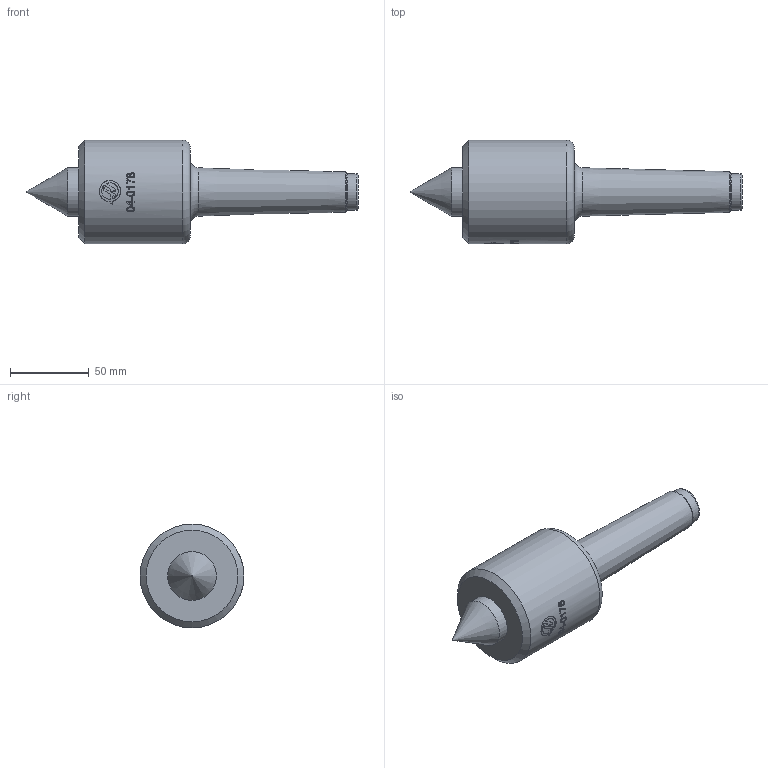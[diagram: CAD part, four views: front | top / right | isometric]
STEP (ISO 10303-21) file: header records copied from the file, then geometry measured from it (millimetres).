
FILE_DESCRIPTION(/* description */ (''),/* implementation_level */ '2;1');
FILE_NAME(/* name */ '04-0178 mt-4 live center.step',/* time_stamp */ '2023-03-07T09:46:18-08:00',/* author */ (''),/* organization */ (''),/* preprocessor_version */ 'ST-DEVELOPER v19.2',/* originating_system */ 'Autodesk Translation Framework v11.17.0.187',/* authorisation */ '');
FILE_SCHEMA (('AUTOMOTIVE_DESIGN { 1 0 10303 214 3 1 1 }'));
Length unit declared in the file: inch
Products named in the file (1): 04-0178 mt-4 live center
Bounding box: 211.25 x 65.99 x 65.99 mm (x, y, z)
Volume: 319326.3 mm3; surface area: 31041.3 mm2
Topology: 1 solids, 1 shells, 283 faces, 783 edges, 520 vertices
Faces by surface type: bspline 221, plane 36, cylinder 18, torus 5, cone 3
Full cylindrical faces by diameter (mm): 23.368 x1, 30.988 x1, 65.989 x1
Entity records: 12570 total; most frequent: CARTESIAN_POINT 6762, ORIENTED_EDGE 1566, EDGE_CURVE 783, DIRECTION 524, VERTEX_POINT 520, B_SPLINE_CURVE_WITH_KNOTS 442, EDGE_LOOP 301, LINE 284
